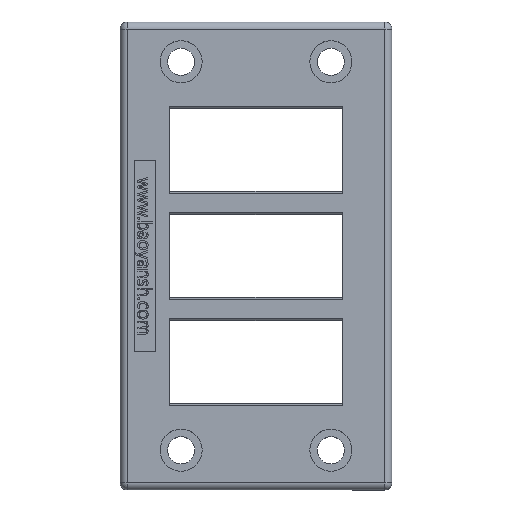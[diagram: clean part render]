
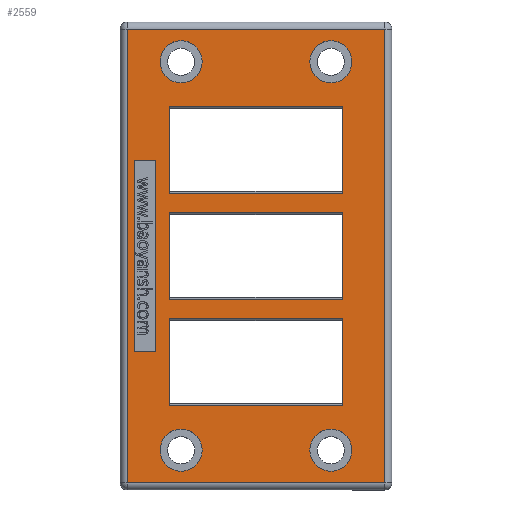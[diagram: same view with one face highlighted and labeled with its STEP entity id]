
A CAD part, top view. The second image highlights one B-rep face of the part: STEP entity #2559.
In plain terms, the highlighted planar face has unit normal (0, 0, 1).
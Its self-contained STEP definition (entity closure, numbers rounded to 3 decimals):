
#654=CIRCLE('',#18516,4.5);
#718=CIRCLE('',#18727,4.5);
#744=CIRCLE('',#19046,4.5);
#745=CIRCLE('',#19048,4.5);
#2559=ADVANCED_FACE('',(#6547,#6548,#6549,#6550,#6551,#6552,#6553,#6554,
#6555),#3154,.T.);
#3154=PLANE('',#19266);
#3309=LINE('',#23917,#4815);
#3463=LINE('',#25751,#4969);
#3506=LINE('',#25856,#5012);
#3541=LINE('',#25943,#5047);
#3606=LINE('',#26082,#5112);
#3713=LINE('',#26987,#5219);
#3715=LINE('',#26991,#5221);
#3717=LINE('',#26995,#5223);
#4373=LINE('',#31495,#6098);
#4451=LINE('',#32156,#6176);
#4496=LINE('',#32325,#6221);
#4498=LINE('',#32329,#6223);
#4646=LINE('',#32792,#6371);
#4666=LINE('',#32841,#6391);
#4670=LINE('',#32858,#6395);
#4671=LINE('',#32860,#6396);
#4681=LINE('',#32881,#6406);
#4682=LINE('',#32883,#6407);
#4685=LINE('',#32888,#6410);
#4686=LINE('',#32890,#6411);
#4815=VECTOR('',#19538,1.);
#4969=VECTOR('',#19986,1.);
#5012=VECTOR('',#20049,1.);
#5047=VECTOR('',#20090,1.);
#5112=VECTOR('',#20187,1.);
#5219=VECTOR('',#20622,1.);
#5221=VECTOR('',#20626,1.);
#5223=VECTOR('',#20630,1.);
#6098=VECTOR('',#22097,1.);
#6176=VECTOR('',#22343,1.);
#6221=VECTOR('',#22436,1.);
#6223=VECTOR('',#22440,1.);
#6371=VECTOR('',#22736,1.);
#6391=VECTOR('',#22780,1.);
#6395=VECTOR('',#22792,1.);
#6396=VECTOR('',#22795,1.);
#6406=VECTOR('',#22827,1.);
#6407=VECTOR('',#22830,1.);
#6410=VECTOR('',#22837,1.);
#6411=VECTOR('',#22840,1.);
#6547=FACE_BOUND('',#7490,.T.);
#6548=FACE_BOUND('',#7491,.T.);
#6549=FACE_BOUND('',#7492,.T.);
#6550=FACE_BOUND('',#7493,.T.);
#6551=FACE_BOUND('',#7494,.T.);
#6552=FACE_BOUND('',#7495,.T.);
#6553=FACE_BOUND('',#7496,.T.);
#6554=FACE_BOUND('',#7497,.T.);
#6555=FACE_BOUND('',#7498,.T.);
#7490=EDGE_LOOP('',(#12394,#12395,#12396,#12397));
#7491=EDGE_LOOP('',(#12398,#12399,#12400,#12401));
#7492=EDGE_LOOP('',(#12402,#12403,#12404,#12405));
#7493=EDGE_LOOP('',(#12406,#12407,#12408,#12409));
#7494=EDGE_LOOP('',(#12410));
#7495=EDGE_LOOP('',(#12411));
#7496=EDGE_LOOP('',(#12412,#12413,#12414,#12415));
#7497=EDGE_LOOP('',(#12416));
#7498=EDGE_LOOP('',(#12417));
#12394=ORIENTED_EDGE('',*,*,#15409,.F.);
#12395=ORIENTED_EDGE('',*,*,#17164,.F.);
#12396=ORIENTED_EDGE('',*,*,#16931,.F.);
#12397=ORIENTED_EDGE('',*,*,#17161,.F.);
#12398=ORIENTED_EDGE('',*,*,#15478,.F.);
#12399=ORIENTED_EDGE('',*,*,#17160,.F.);
#12400=ORIENTED_EDGE('',*,*,#16933,.F.);
#12401=ORIENTED_EDGE('',*,*,#17121,.T.);
#12402=ORIENTED_EDGE('',*,*,#17165,.F.);
#12403=ORIENTED_EDGE('',*,*,#15371,.T.);
#12404=ORIENTED_EDGE('',*,*,#17150,.T.);
#12405=ORIENTED_EDGE('',*,*,#16863,.T.);
#12406=ORIENTED_EDGE('',*,*,#15324,.T.);
#12407=ORIENTED_EDGE('',*,*,#17143,.T.);
#12408=ORIENTED_EDGE('',*,*,#16704,.T.);
#12409=ORIENTED_EDGE('',*,*,#17149,.T.);
#12410=ORIENTED_EDGE('',*,*,#16703,.T.);
#12411=ORIENTED_EDGE('',*,*,#16702,.T.);
#12412=ORIENTED_EDGE('',*,*,#15749,.F.);
#12413=ORIENTED_EDGE('',*,*,#14892,.F.);
#12414=ORIENTED_EDGE('',*,*,#15751,.F.);
#12415=ORIENTED_EDGE('',*,*,#15753,.F.);
#12416=ORIENTED_EDGE('',*,*,#15260,.T.);
#12417=ORIENTED_EDGE('',*,*,#15706,.T.);
#13098=VERTEX_POINT('',#23916);
#13099=VERTEX_POINT('',#23918);
#13429=VERTEX_POINT('',#25444);
#13431=VERTEX_POINT('',#25448);
#13469=VERTEX_POINT('',#25750);
#13506=VERTEX_POINT('',#25857);
#13507=VERTEX_POINT('',#25858);
#13541=VERTEX_POINT('',#25944);
#13542=VERTEX_POINT('',#25945);
#13595=VERTEX_POINT('',#26076);
#13598=VERTEX_POINT('',#26081);
#13758=VERTEX_POINT('',#26863);
#13787=VERTEX_POINT('',#26988);
#13788=VERTEX_POINT('',#26992);
#14307=VERTEX_POINT('',#31490);
#14308=VERTEX_POINT('',#31493);
#14309=VERTEX_POINT('',#31496);
#14310=VERTEX_POINT('',#31497);
#14417=VERTEX_POINT('',#32155);
#14418=VERTEX_POINT('',#32157);
#14475=VERTEX_POINT('',#32324);
#14476=VERTEX_POINT('',#32326);
#14477=VERTEX_POINT('',#32330);
#14478=VERTEX_POINT('',#32331);
#14892=EDGE_CURVE('',#13098,#13099,#3309,.T.);
#15260=EDGE_CURVE('',#13429,#13429,#654,.T.);
#15324=EDGE_CURVE('',#13431,#13469,#3463,.T.);
#15371=EDGE_CURVE('',#13506,#13507,#3506,.T.);
#15409=EDGE_CURVE('',#13541,#13542,#3541,.T.);
#15478=EDGE_CURVE('',#13598,#13595,#3606,.T.);
#15706=EDGE_CURVE('',#13758,#13758,#718,.T.);
#15749=EDGE_CURVE('',#13099,#13787,#3713,.T.);
#15751=EDGE_CURVE('',#13788,#13098,#3715,.T.);
#15753=EDGE_CURVE('',#13787,#13788,#3717,.T.);
#16702=EDGE_CURVE('',#14307,#14307,#744,.T.);
#16703=EDGE_CURVE('',#14308,#14308,#745,.T.);
#16704=EDGE_CURVE('',#14309,#14310,#4373,.T.);
#16863=EDGE_CURVE('',#14418,#14417,#4451,.T.);
#16931=EDGE_CURVE('',#14475,#14476,#4496,.T.);
#16933=EDGE_CURVE('',#14477,#14478,#4498,.T.);
#17121=EDGE_CURVE('',#14477,#13595,#4646,.T.);
#17143=EDGE_CURVE('',#13469,#14309,#4666,.T.);
#17149=EDGE_CURVE('',#14310,#13431,#4670,.T.);
#17150=EDGE_CURVE('',#13507,#14418,#4671,.T.);
#17160=EDGE_CURVE('',#14478,#13598,#4681,.T.);
#17161=EDGE_CURVE('',#13542,#14475,#4682,.T.);
#17164=EDGE_CURVE('',#14476,#13541,#4685,.T.);
#17165=EDGE_CURVE('',#13506,#14417,#4686,.T.);
#18516=AXIS2_PLACEMENT_3D('',#25443,#19882,#19883);
#18727=AXIS2_PLACEMENT_3D('',#26862,#20544,#20545);
#19046=AXIS2_PLACEMENT_3D('',#31489,#22089,#22090);
#19048=AXIS2_PLACEMENT_3D('',#31492,#22093,#22094);
#19266=AXIS2_PLACEMENT_3D('',#32892,#22843,#22844);
#19538=DIRECTION('',(0.,-1.,0.));
#19882=DIRECTION('',(0.,0.,-1.));
#19883=DIRECTION('',(1.,0.,0.));
#19986=DIRECTION('',(0.,-1.,0.));
#20049=DIRECTION('',(0.,1.,0.));
#20090=DIRECTION('',(0.,-1.,0.));
#20187=DIRECTION('',(0.,-1.,0.));
#20544=DIRECTION('',(0.,0.,-1.));
#20545=DIRECTION('',(1.,0.,0.));
#20622=DIRECTION('',(1.,0.,0.));
#20626=DIRECTION('',(-1.,0.,0.));
#20630=DIRECTION('',(0.,1.,0.));
#22089=DIRECTION('',(0.,0.,-1.));
#22090=DIRECTION('',(1.,0.,0.));
#22093=DIRECTION('',(0.,0.,-1.));
#22094=DIRECTION('',(1.,0.,0.));
#22097=DIRECTION('',(0.,1.,0.));
#22343=DIRECTION('',(0.,-1.,0.));
#22436=DIRECTION('',(0.,1.,0.));
#22440=DIRECTION('',(0.,1.,0.));
#22736=DIRECTION('',(-1.,0.,0.));
#22780=DIRECTION('',(1.,0.,0.));
#22792=DIRECTION('',(-1.,0.,0.));
#22795=DIRECTION('',(1.,0.,0.));
#22827=DIRECTION('',(-1.,0.,0.));
#22830=DIRECTION('',(1.,0.,0.));
#22837=DIRECTION('',(-1.,0.,0.));
#22840=DIRECTION('',(1.,0.,0.));
#22843=DIRECTION('',(0.,0.,1.));
#22844=DIRECTION('',(0.,1.,0.));
#23916=CARTESIAN_POINT('',(-69.992,143.206,1.526));
#23917=CARTESIAN_POINT('',(-69.992,24.326,1.526));
#23918=CARTESIAN_POINT('',(-69.992,102.207,1.526));
#25443=CARTESIAN_POINT('',(-59.992,164.206,1.526));
#25444=CARTESIAN_POINT('',(-55.492,164.206,1.526));
#25448=CARTESIAN_POINT('',(-71.492,171.206,1.526));
#25750=CARTESIAN_POINT('',(-71.492,74.207,1.526));
#25751=CARTESIAN_POINT('',(-71.492,24.326,1.526));
#25856=CARTESIAN_POINT('',(-62.492,246.086,1.526));
#25857=CARTESIAN_POINT('',(-62.492,136.156,1.526));
#25858=CARTESIAN_POINT('',(-62.492,154.556,1.526));
#25943=CARTESIAN_POINT('',(-62.492,22.993,1.526));
#25944=CARTESIAN_POINT('',(-62.492,131.906,1.526));
#25945=CARTESIAN_POINT('',(-62.492,113.506,1.526));
#26076=CARTESIAN_POINT('',(-62.492,90.856,1.526));
#26081=CARTESIAN_POINT('',(-62.492,109.256,1.526));
#26082=CARTESIAN_POINT('',(-62.492,24.326,1.526));
#26862=CARTESIAN_POINT('',(-59.992,81.206,1.526));
#26863=CARTESIAN_POINT('',(-55.492,81.206,1.526));
#26987=CARTESIAN_POINT('',(-72.042,102.207,1.526));
#26988=CARTESIAN_POINT('',(-65.492,102.207,1.526));
#26991=CARTESIAN_POINT('',(-72.042,143.206,1.526));
#26992=CARTESIAN_POINT('',(-65.492,143.206,1.526));
#26995=CARTESIAN_POINT('',(-65.492,24.326,1.526));
#31489=CARTESIAN_POINT('',(-27.992,81.206,1.526));
#31490=CARTESIAN_POINT('',(-27.992,76.706,1.526));
#31492=CARTESIAN_POINT('',(-27.992,164.206,1.526));
#31493=CARTESIAN_POINT('',(-27.992,168.706,1.526));
#31495=CARTESIAN_POINT('',(-16.492,246.086,1.526));
#31496=CARTESIAN_POINT('',(-16.492,74.207,1.526));
#31497=CARTESIAN_POINT('',(-16.492,171.206,1.526));
#32155=CARTESIAN_POINT('',(-25.492,136.156,1.526));
#32156=CARTESIAN_POINT('',(-25.492,246.086,1.526));
#32157=CARTESIAN_POINT('',(-25.492,154.556,1.526));
#32324=CARTESIAN_POINT('',(-25.492,113.506,1.526));
#32325=CARTESIAN_POINT('',(-25.492,22.993,1.526));
#32326=CARTESIAN_POINT('',(-25.492,131.906,1.526));
#32329=CARTESIAN_POINT('',(-25.492,24.326,1.526));
#32330=CARTESIAN_POINT('',(-25.492,90.856,1.526));
#32331=CARTESIAN_POINT('',(-25.492,109.256,1.526));
#32792=CARTESIAN_POINT('',(-55.223,90.856,1.526));
#32841=CARTESIAN_POINT('',(-30.242,74.207,1.526));
#32858=CARTESIAN_POINT('',(-30.242,171.206,1.526));
#32860=CARTESIAN_POINT('',(-55.223,154.556,1.526));
#32881=CARTESIAN_POINT('',(-55.223,109.256,1.526));
#32883=CARTESIAN_POINT('',(-55.223,113.506,1.526));
#32888=CARTESIAN_POINT('',(-55.223,131.906,1.526));
#32890=CARTESIAN_POINT('',(-55.223,136.156,1.526));
#32892=CARTESIAN_POINT('',(-44.542,246.086,1.526));
